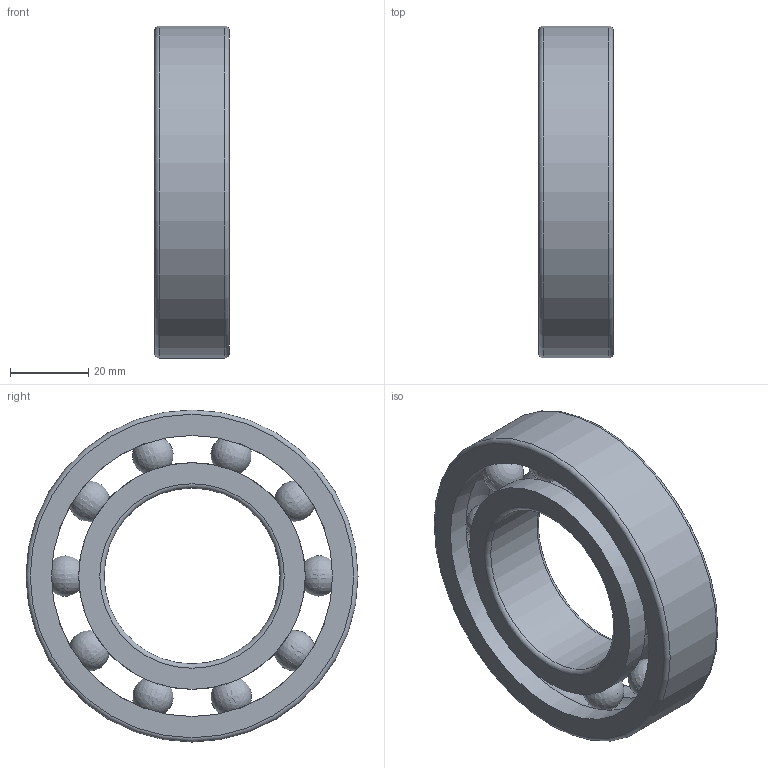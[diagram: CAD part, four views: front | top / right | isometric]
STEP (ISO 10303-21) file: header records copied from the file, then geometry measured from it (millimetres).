
FILE_DESCRIPTION(/* description */ ('깊은 그루부 볼 베어링'),/* implementation_level */ '2;1');
FILE_NAME(/* name */ '',/* time_stamp */ '2025-05-23T15:50:12+09:00',/* author */ ('jhkim'),/* organization */ (''),/* preprocessor_version */ 'ST-DEVELOPER v20.1',/* originating_system */ 'Autodesk Inventor 2026',/* authorisation */ '');
FILE_SCHEMA (('AUTOMOTIVE_DESIGN { 1 0 10303 214 3 1 1 }'));
Length unit declared in the file: millimetre
Products named in the file (1): 깊은 홈 볼 베어링 
6209
Bounding box: 19 x 85 x 85 mm (x, y, z)
Volume: 52512.6 mm3; surface area: 24259.1 mm2
Topology: 12 solids, 12 shells, 44 faces, 116 edges, 76 vertices
Faces by surface type: torus 24, sphere 10, cylinder 6, plane 4
Full cylindrical faces by diameter (mm): 45 x1, 58.04 x2, 71.96 x2, 85 x1
Entity records: 1638 total; most frequent: DIRECTION 316, CARTESIAN_POINT 277, ORIENTED_EDGE 232, AXIS2_PLACEMENT_3D 155, VERTEX_POINT 116, EDGE_CURVE 116, CIRCLE 110, EDGE_LOOP 68
